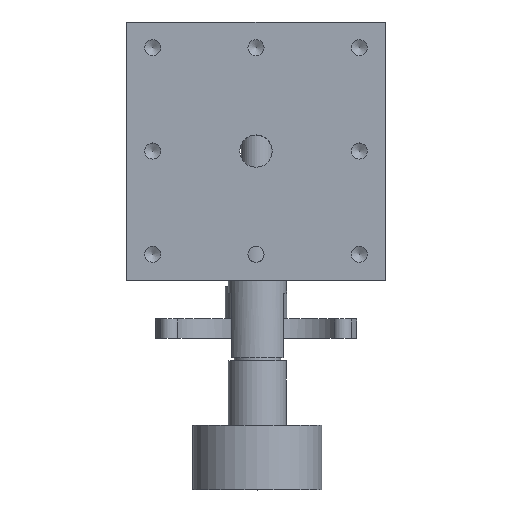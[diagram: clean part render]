
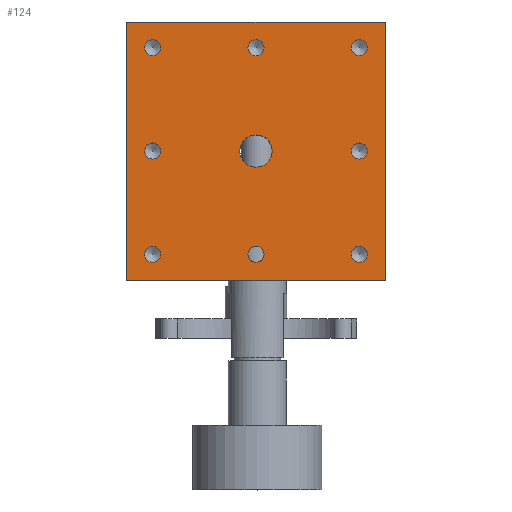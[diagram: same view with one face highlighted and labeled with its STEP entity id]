
A CAD part, top view. The second image highlights one B-rep face of the part: STEP entity #124.
In plain terms, the highlighted planar face has unit normal (0, 0, 1).
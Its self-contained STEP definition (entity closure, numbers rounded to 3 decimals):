
#124 = ADVANCED_FACE( '', ( #222, #223, #224, #225, #226, #227, #228, #229, #230, #231 ), #232, .T. );
#222 = FACE_BOUND( '', #472, .T. );
#223 = FACE_BOUND( '', #473, .T. );
#224 = FACE_BOUND( '', #474, .T. );
#225 = FACE_BOUND( '', #475, .T. );
#226 = FACE_BOUND( '', #476, .T. );
#227 = FACE_BOUND( '', #477, .T. );
#228 = FACE_BOUND( '', #478, .T. );
#229 = FACE_BOUND( '', #479, .T. );
#230 = FACE_BOUND( '', #480, .T. );
#231 = FACE_OUTER_BOUND( '', #481, .T. );
#232 = PLANE( '', #482 );
#472 = EDGE_LOOP( '', ( #728 ) );
#473 = EDGE_LOOP( '', ( #729 ) );
#474 = EDGE_LOOP( '', ( #730 ) );
#475 = EDGE_LOOP( '', ( #731 ) );
#476 = EDGE_LOOP( '', ( #732 ) );
#477 = EDGE_LOOP( '', ( #733 ) );
#478 = EDGE_LOOP( '', ( #734 ) );
#479 = EDGE_LOOP( '', ( #735 ) );
#480 = EDGE_LOOP( '', ( #736 ) );
#481 = EDGE_LOOP( '', ( #737, #738, #739, #740 ) );
#482 = AXIS2_PLACEMENT_3D( '', #741, #742, #743 );
#728 = ORIENTED_EDGE( '', *, *, #1394, .T. );
#729 = ORIENTED_EDGE( '', *, *, #1395, .T. );
#730 = ORIENTED_EDGE( '', *, *, #1396, .T. );
#731 = ORIENTED_EDGE( '', *, *, #1397, .T. );
#732 = ORIENTED_EDGE( '', *, *, #1398, .T. );
#733 = ORIENTED_EDGE( '', *, *, #1399, .T. );
#734 = ORIENTED_EDGE( '', *, *, #1400, .T. );
#735 = ORIENTED_EDGE( '', *, *, #1401, .T. );
#736 = ORIENTED_EDGE( '', *, *, #1402, .T. );
#737 = ORIENTED_EDGE( '', *, *, #1403, .F. );
#738 = ORIENTED_EDGE( '', *, *, #1404, .F. );
#739 = ORIENTED_EDGE( '', *, *, #1405, .F. );
#740 = ORIENTED_EDGE( '', *, *, #1406, .F. );
#741 = CARTESIAN_POINT( '', ( 0., 0., 22.5 ) );
#742 = DIRECTION( '', ( 0., 0., 1. ) );
#743 = DIRECTION( '', ( 1., 0., 0. ) );
#1394 = EDGE_CURVE( '', #1594, #1594, #1595, .T. );
#1395 = EDGE_CURVE( '', #1596, #1596, #1597, .T. );
#1396 = EDGE_CURVE( '', #1598, #1598, #1599, .T. );
#1397 = EDGE_CURVE( '', #1600, #1600, #1601, .T. );
#1398 = EDGE_CURVE( '', #1602, #1602, #1603, .T. );
#1399 = EDGE_CURVE( '', #1604, #1604, #1605, .T. );
#1400 = EDGE_CURVE( '', #1606, #1606, #1607, .T. );
#1401 = EDGE_CURVE( '', #1608, #1608, #1609, .T. );
#1402 = EDGE_CURVE( '', #1610, #1610, #1611, .T. );
#1403 = EDGE_CURVE( '', #1612, #1613, #1614, .T. );
#1404 = EDGE_CURVE( '', #1615, #1612, #1616, .T. );
#1405 = EDGE_CURVE( '', #1617, #1615, #1618, .T. );
#1406 = EDGE_CURVE( '', #1613, #1617, #1619, .T. );
#1594 = VERTEX_POINT( '', #1929 );
#1595 = CIRCLE( '', #1930, 2.5 );
#1596 = VERTEX_POINT( '', #1931 );
#1597 = CIRCLE( '', #1932, 1.25 );
#1598 = VERTEX_POINT( '', #1933 );
#1599 = CIRCLE( '', #1934, 1.25 );
#1600 = VERTEX_POINT( '', #1935 );
#1601 = CIRCLE( '', #1936, 1.25 );
#1602 = VERTEX_POINT( '', #1937 );
#1603 = CIRCLE( '', #1938, 1.25 );
#1604 = VERTEX_POINT( '', #1939 );
#1605 = CIRCLE( '', #1940, 1.25 );
#1606 = VERTEX_POINT( '', #1941 );
#1607 = CIRCLE( '', #1942, 1.25 );
#1608 = VERTEX_POINT( '', #1943 );
#1609 = CIRCLE( '', #1944, 1.25 );
#1610 = VERTEX_POINT( '', #1945 );
#1611 = CIRCLE( '', #1946, 1.25 );
#1612 = VERTEX_POINT( '', #1947 );
#1613 = VERTEX_POINT( '', #1948 );
#1614 = LINE( '', #1949, #1950 );
#1615 = VERTEX_POINT( '', #1951 );
#1616 = LINE( '', #1952, #1953 );
#1617 = VERTEX_POINT( '', #1954 );
#1618 = LINE( '', #1955, #1956 );
#1619 = LINE( '', #1957, #1958 );
#1929 = CARTESIAN_POINT( '', ( 2.5, 0., 22.5 ) );
#1930 = AXIS2_PLACEMENT_3D( '', #2439, #2440, #2441 );
#1931 = CARTESIAN_POINT( '', ( 17.25, 0., 22.5 ) );
#1932 = AXIS2_PLACEMENT_3D( '', #2442, #2443, #2444 );
#1933 = CARTESIAN_POINT( '', ( 17.25, 16., 22.5 ) );
#1934 = AXIS2_PLACEMENT_3D( '', #2445, #2446, #2447 );
#1935 = CARTESIAN_POINT( '', ( 1.25, 16., 22.5 ) );
#1936 = AXIS2_PLACEMENT_3D( '', #2448, #2449, #2450 );
#1937 = CARTESIAN_POINT( '', ( -14.75, 16., 22.5 ) );
#1938 = AXIS2_PLACEMENT_3D( '', #2451, #2452, #2453 );
#1939 = CARTESIAN_POINT( '', ( -14.75, 0., 22.5 ) );
#1940 = AXIS2_PLACEMENT_3D( '', #2454, #2455, #2456 );
#1941 = CARTESIAN_POINT( '', ( -14.75, -16., 22.5 ) );
#1942 = AXIS2_PLACEMENT_3D( '', #2457, #2458, #2459 );
#1943 = CARTESIAN_POINT( '', ( 1.25, -16., 22.5 ) );
#1944 = AXIS2_PLACEMENT_3D( '', #2460, #2461, #2462 );
#1945 = CARTESIAN_POINT( '', ( 17.25, -16., 22.5 ) );
#1946 = AXIS2_PLACEMENT_3D( '', #2463, #2464, #2465 );
#1947 = CARTESIAN_POINT( '', ( 20., -20., 22.5 ) );
#1948 = CARTESIAN_POINT( '', ( -20., -20., 22.5 ) );
#1949 = CARTESIAN_POINT( '', ( 0., -20., 22.5 ) );
#1950 = VECTOR( '', #2466, 1000. );
#1951 = CARTESIAN_POINT( '', ( 20., 20., 22.5 ) );
#1952 = CARTESIAN_POINT( '', ( 20., 0., 22.5 ) );
#1953 = VECTOR( '', #2467, 1000. );
#1954 = CARTESIAN_POINT( '', ( -20., 20., 22.5 ) );
#1955 = CARTESIAN_POINT( '', ( 0., 20., 22.5 ) );
#1956 = VECTOR( '', #2468, 1000. );
#1957 = CARTESIAN_POINT( '', ( -20., 0., 22.5 ) );
#1958 = VECTOR( '', #2469, 1000. );
#2439 = CARTESIAN_POINT( '', ( 0., 0., 22.5 ) );
#2440 = DIRECTION( '', ( 0., 0., -1. ) );
#2441 = DIRECTION( '', ( 1., 0., 0. ) );
#2442 = CARTESIAN_POINT( '', ( 16., 0., 22.5 ) );
#2443 = DIRECTION( '', ( 0., 0., -1. ) );
#2444 = DIRECTION( '', ( 1., 0., 0. ) );
#2445 = CARTESIAN_POINT( '', ( 16., 16., 22.5 ) );
#2446 = DIRECTION( '', ( 0., 0., -1. ) );
#2447 = DIRECTION( '', ( 1., 0., 0. ) );
#2448 = CARTESIAN_POINT( '', ( 0., 16., 22.5 ) );
#2449 = DIRECTION( '', ( 0., 0., -1. ) );
#2450 = DIRECTION( '', ( 1., 0., 0. ) );
#2451 = CARTESIAN_POINT( '', ( -16., 16., 22.5 ) );
#2452 = DIRECTION( '', ( 0., 0., -1. ) );
#2453 = DIRECTION( '', ( 1., 0., 0. ) );
#2454 = CARTESIAN_POINT( '', ( -16., 0., 22.5 ) );
#2455 = DIRECTION( '', ( 0., 0., -1. ) );
#2456 = DIRECTION( '', ( 1., 0., 0. ) );
#2457 = CARTESIAN_POINT( '', ( -16., -16., 22.5 ) );
#2458 = DIRECTION( '', ( 0., 0., -1. ) );
#2459 = DIRECTION( '', ( 1., 0., 0. ) );
#2460 = CARTESIAN_POINT( '', ( 0., -16., 22.5 ) );
#2461 = DIRECTION( '', ( 0., 0., -1. ) );
#2462 = DIRECTION( '', ( 1., 0., 0. ) );
#2463 = CARTESIAN_POINT( '', ( 16., -16., 22.5 ) );
#2464 = DIRECTION( '', ( 0., 0., -1. ) );
#2465 = DIRECTION( '', ( 1., 0., 0. ) );
#2466 = DIRECTION( '', ( -1., 0., 0. ) );
#2467 = DIRECTION( '', ( 0., -1., 0. ) );
#2468 = DIRECTION( '', ( 1., 0., 0. ) );
#2469 = DIRECTION( '', ( 0., 1., 0. ) );
